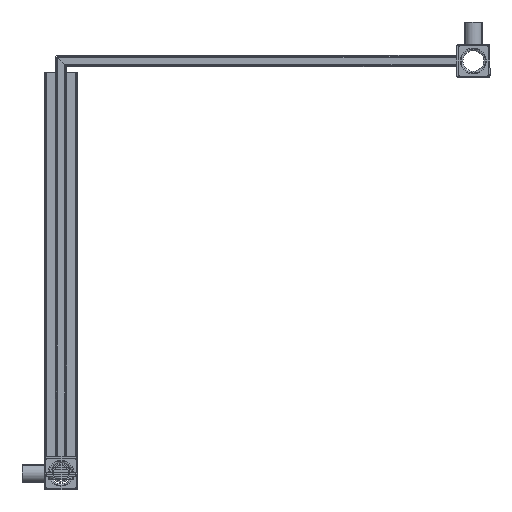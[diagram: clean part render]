
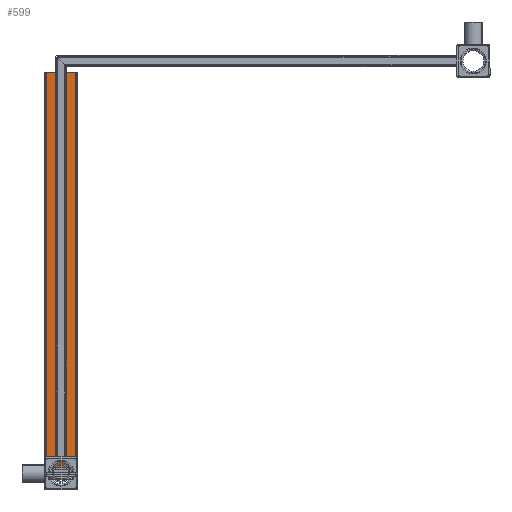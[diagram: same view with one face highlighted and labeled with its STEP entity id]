
A CAD part, front view. The second image highlights one B-rep face of the part: STEP entity #599.
In plain terms, the highlighted planar face has unit normal (0, -1, 0) as drawn and (0, 0, 1) by its records, which use the part's own axes.
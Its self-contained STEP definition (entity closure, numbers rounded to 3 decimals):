
#599 = ADVANCED_FACE( '', ( #1347 ), #1348, .T. );
#1347 = FACE_OUTER_BOUND( '', #2226, .T. );
#1348 = PLANE( '', #2227 );
#2226 = EDGE_LOOP( '', ( #4156, #4157, #4158, #4159 ) );
#2227 = AXIS2_PLACEMENT_3D( '', #4160, #4161, #4162 );
#4156 = ORIENTED_EDGE( '', *, *, #5779, .F. );
#4157 = ORIENTED_EDGE( '', *, *, #5632, .T. );
#4158 = ORIENTED_EDGE( '', *, *, #5780, .F. );
#4159 = ORIENTED_EDGE( '', *, *, #5639, .T. );
#4160 = CARTESIAN_POINT( '', ( 15., 389.28, 5. ) );
#4161 = DIRECTION( '', ( 0., 0., 1. ) );
#4162 = DIRECTION( '', ( 1., 0., 0. ) );
#5632 = EDGE_CURVE( '', #6963, #6967, #6969, .F. );
#5639 = EDGE_CURVE( '', #6978, #6975, #6979, .T. );
#5779 = EDGE_CURVE( '', #6963, #6975, #7176, .T. );
#5780 = EDGE_CURVE( '', #6978, #6967, #7177, .T. );
#6963 = VERTEX_POINT( '', #8708 );
#6967 = VERTEX_POINT( '', #8713 );
#6969 = LINE( '', #8715, #8716 );
#6975 = VERTEX_POINT( '', #8722 );
#6978 = VERTEX_POINT( '', #8725 );
#6979 = LINE( '', #8726, #8727 );
#7176 = LINE( '', #8994, #8995 );
#7177 = LINE( '', #8996, #8997 );
#8708 = CARTESIAN_POINT( '', ( 13., 25., 5. ) );
#8713 = CARTESIAN_POINT( '', ( 13., 380., 5. ) );
#8715 = CARTESIAN_POINT( '', ( 13., 389.28, 5. ) );
#8716 = VECTOR( '', #10086, 1000. );
#8722 = CARTESIAN_POINT( '', ( -13., 25., 5. ) );
#8725 = CARTESIAN_POINT( '', ( -13., 380., 5. ) );
#8726 = CARTESIAN_POINT( '', ( -13., 389.28, 5. ) );
#8727 = VECTOR( '', #10096, 1000. );
#8994 = CARTESIAN_POINT( '', ( 15., 25., 5. ) );
#8995 = VECTOR( '', #10314, 1000. );
#8996 = CARTESIAN_POINT( '', ( -15., 380., 5. ) );
#8997 = VECTOR( '', #10315, 1000. );
#10086 = DIRECTION( '', ( 0., -1., 0. ) );
#10096 = DIRECTION( '', ( 0., -1., 0. ) );
#10314 = DIRECTION( '', ( -1., 0., 0. ) );
#10315 = DIRECTION( '', ( 1., 0., 0. ) );
